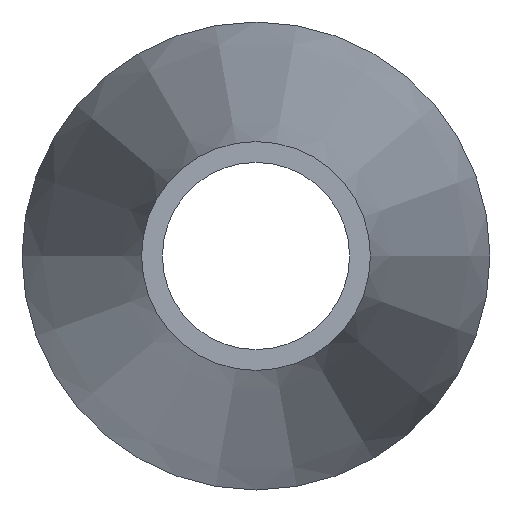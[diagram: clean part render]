
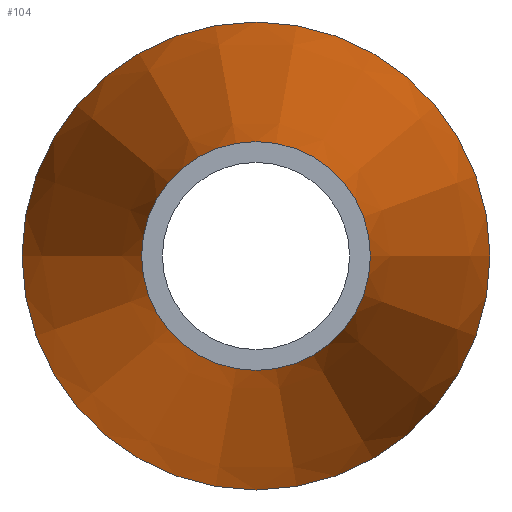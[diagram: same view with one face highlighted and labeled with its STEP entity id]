
A CAD part, front view. The second image highlights one B-rep face of the part: STEP entity #104.
In plain terms, the highlighted conical face has half-angle 9.33 degrees and reference radius 1.1 mm.
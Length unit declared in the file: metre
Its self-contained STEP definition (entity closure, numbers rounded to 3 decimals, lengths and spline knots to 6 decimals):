
#12=CONICAL_SURFACE('',#129,0.0011,0.163);
#21=ORIENTED_EDGE('',*,*,#38,.F.);
#22=ORIENTED_EDGE('',*,*,#37,.T.);
#37=EDGE_CURVE('',#46,#46,#55,.T.);
#38=EDGE_CURVE('',#47,#47,#56,.T.);
#46=VERTEX_POINT('',#188);
#47=VERTEX_POINT('',#191);
#55=CIRCLE('',#128,0.0011);
#56=CIRCLE('',#130,0.00225);
#66=EDGE_LOOP('',(#21));
#67=EDGE_LOOP('',(#22));
#84=FACE_BOUND('',#66,.T.);
#85=FACE_BOUND('',#67,.T.);
#104=ADVANCED_FACE('',(#84,#85),#12,.T.);
#128=AXIS2_PLACEMENT_3D('',#187,#152,#153);
#129=AXIS2_PLACEMENT_3D('',#189,#154,#155);
#130=AXIS2_PLACEMENT_3D('',#190,#156,#157);
#152=DIRECTION('',(0.,1.,0.));
#153=DIRECTION('',(1.,0.,0.));
#154=DIRECTION('',(0.,1.,0.));
#155=DIRECTION('',(1.,0.,0.));
#156=DIRECTION('',(0.,1.,0.));
#157=DIRECTION('',(1.,0.,0.));
#187=CARTESIAN_POINT('',(-0.092677,-0.081301,-0.025701));
#188=CARTESIAN_POINT('',(-0.091577,-0.081301,-0.025701));
#189=CARTESIAN_POINT('',(-0.092677,-0.081301,-0.025701));
#190=CARTESIAN_POINT('',(-0.092677,-0.074301,-0.025701));
#191=CARTESIAN_POINT('',(-0.090427,-0.074301,-0.025701));
